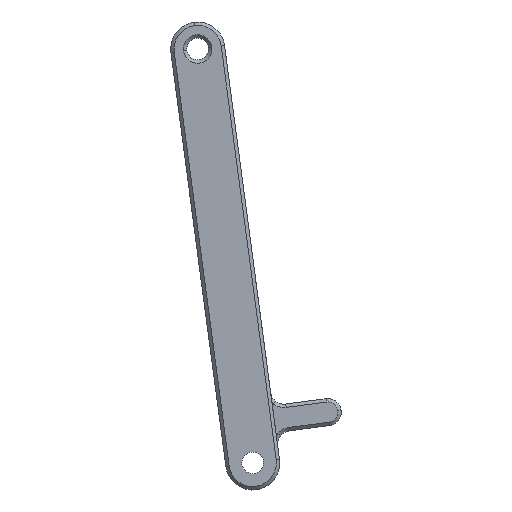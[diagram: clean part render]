
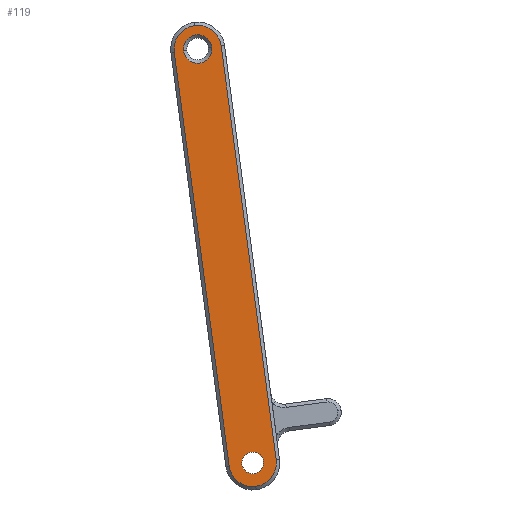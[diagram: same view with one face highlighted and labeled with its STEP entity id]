
A CAD part, left-side view. The second image highlights one B-rep face of the part: STEP entity #119.
In plain terms, the highlighted planar face has unit normal (-1, 0, 0).
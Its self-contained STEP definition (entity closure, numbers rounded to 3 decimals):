
#119=ADVANCED_FACE('',(#300,#301,#302),#303,.T.);
#300=FACE_OUTER_BOUND('',#527,.T.);
#301=FACE_BOUND('',#528,.T.);
#302=FACE_BOUND('',#529,.T.);
#303=PLANE('',#530);
#527=EDGE_LOOP('',(#1114,#1115,#1116,#1117,#1118,#1119));
#528=EDGE_LOOP('',(#1120,#1121));
#529=EDGE_LOOP('',(#1122,#1123));
#530=AXIS2_PLACEMENT_3D('',#1124,#1125,#1126);
#1114=ORIENTED_EDGE('',*,*,#1677,.F.);
#1115=ORIENTED_EDGE('',*,*,#1504,.F.);
#1116=ORIENTED_EDGE('',*,*,#1678,.F.);
#1117=ORIENTED_EDGE('',*,*,#1679,.F.);
#1118=ORIENTED_EDGE('',*,*,#1501,.F.);
#1119=ORIENTED_EDGE('',*,*,#1680,.F.);
#1120=ORIENTED_EDGE('',*,*,#1475,.T.);
#1121=ORIENTED_EDGE('',*,*,#1681,.T.);
#1122=ORIENTED_EDGE('',*,*,#1555,.F.);
#1123=ORIENTED_EDGE('',*,*,#1669,.F.);
#1124=CARTESIAN_POINT('',(-713.5,205.99,-75.573));
#1125=DIRECTION('',(-1.0,0.0,0.0));
#1126=DIRECTION('',(0.0,0.132,0.991));
#1475=EDGE_CURVE('',#1744,#1741,#1745,.T.);
#1501=EDGE_CURVE('',#1793,#1795,#1796,.T.);
#1504=EDGE_CURVE('',#1798,#1801,#1802,.T.);
#1555=EDGE_CURVE('',#1893,#1891,#1895,.T.);
#1669=EDGE_CURVE('',#1891,#1893,#2075,.T.);
#1677=EDGE_CURVE('',#1801,#2085,#2086,.T.);
#1678=EDGE_CURVE('',#2087,#1798,#2088,.T.);
#1679=EDGE_CURVE('',#1795,#2087,#2089,.T.);
#1680=EDGE_CURVE('',#2085,#1793,#2090,.T.);
#1681=EDGE_CURVE('',#1741,#1744,#2091,.T.);
#1741=VERTEX_POINT('',#2164);
#1744=VERTEX_POINT('',#2168);
#1745=CIRCLE('',#2169,1.6);
#1793=VERTEX_POINT('',#2228);
#1795=VERTEX_POINT('',#2231);
#1796=CIRCLE('',#2232,3.5);
#1798=VERTEX_POINT('',#2235);
#1801=VERTEX_POINT('',#2239);
#1802=CIRCLE('',#2240,3.5);
#1891=VERTEX_POINT('',#2354);
#1893=VERTEX_POINT('',#2357);
#1895=CIRCLE('',#2360,2.1);
#2075=CIRCLE('',#2668,2.1);
#2085=VERTEX_POINT('',#2680);
#2086=LINE('',#2681,#2682);
#2087=VERTEX_POINT('',#2683);
#2088=CIRCLE('',#2684,3.5);
#2089=LINE('',#2685,#2686);
#2090=CIRCLE('',#2687,3.5);
#2091=CIRCLE('',#2688,1.6);
#2164=CARTESIAN_POINT('',(-713.5,200.966,-70.871));
#2168=CARTESIAN_POINT('',(-713.5,204.138,-71.292));
#2169=AXIS2_PLACEMENT_3D('',#2797,#2798,#2799);
#2228=CARTESIAN_POINT('',(-713.5,202.091,-74.551));
#2231=CARTESIAN_POINT('',(-713.5,206.021,-71.542));
#2232=AXIS2_PLACEMENT_3D('',#2851,#2852,#2853);
#2235=CARTESIAN_POINT('',(-713.5,211.143,-6.393));
#2239=CARTESIAN_POINT('',(-713.5,207.213,-9.402));
#2240=AXIS2_PLACEMENT_3D('',#2856,#2857,#2858);
#2354=CARTESIAN_POINT('',(-713.5,212.764,-10.139));
#2357=CARTESIAN_POINT('',(-713.5,208.601,-9.586));
#2360=AXIS2_PLACEMENT_3D('',#2955,#2956,#2957);
#2668=AXIS2_PLACEMENT_3D('',#3161,#3162,#3163);
#2680=CARTESIAN_POINT('',(-713.5,199.082,-70.621));
#2681=CARTESIAN_POINT('',(-713.5,198.556,-74.586));
#2682=VECTOR('',#3181,1.0);
#2683=CARTESIAN_POINT('',(-713.5,214.152,-10.323));
#2684=AXIS2_PLACEMENT_3D('',#3182,#3183,#3184);
#2685=CARTESIAN_POINT('',(-713.5,205.495,-75.507));
#2686=VECTOR('',#3185,1.0);
#2687=AXIS2_PLACEMENT_3D('',#3186,#3187,#3188);
#2688=AXIS2_PLACEMENT_3D('',#3189,#3190,#3191);
#2797=CARTESIAN_POINT('',(-713.5,202.552,-71.081));
#2798=DIRECTION('',(1.0,0.0,0.0));
#2799=DIRECTION('',(0.0,-0.991,0.132));
#2851=CARTESIAN_POINT('',(-713.5,202.552,-71.081));
#2852=DIRECTION('',(1.0,0.0,0.0));
#2853=DIRECTION('',(0.0,-0.132,-0.991));
#2856=CARTESIAN_POINT('',(-713.5,210.683,-9.862));
#2857=DIRECTION('',(1.0,0.0,-0.0));
#2858=DIRECTION('',(0.0,0.132,0.991));
#2955=CARTESIAN_POINT('',(-713.5,210.683,-9.862));
#2956=DIRECTION('',(-1.0,0.0,-0.0));
#2957=DIRECTION('',(0.0,0.991,-0.132));
#3161=CARTESIAN_POINT('',(-713.5,210.683,-9.862));
#3162=DIRECTION('',(-1.0,0.0,-0.0));
#3163=DIRECTION('',(0.0,0.991,-0.132));
#3181=DIRECTION('',(0.0,-0.132,-0.991));
#3182=CARTESIAN_POINT('',(-713.5,210.683,-9.862));
#3183=DIRECTION('',(1.0,0.0,-0.0));
#3184=DIRECTION('',(0.0,0.132,0.991));
#3185=DIRECTION('',(0.0,0.132,0.991));
#3186=CARTESIAN_POINT('',(-713.5,202.552,-71.081));
#3187=DIRECTION('',(1.0,0.0,0.0));
#3188=DIRECTION('',(0.0,-0.132,-0.991));
#3189=CARTESIAN_POINT('',(-713.5,202.552,-71.081));
#3190=DIRECTION('',(1.0,0.0,0.0));
#3191=DIRECTION('',(0.0,-0.991,0.132));
